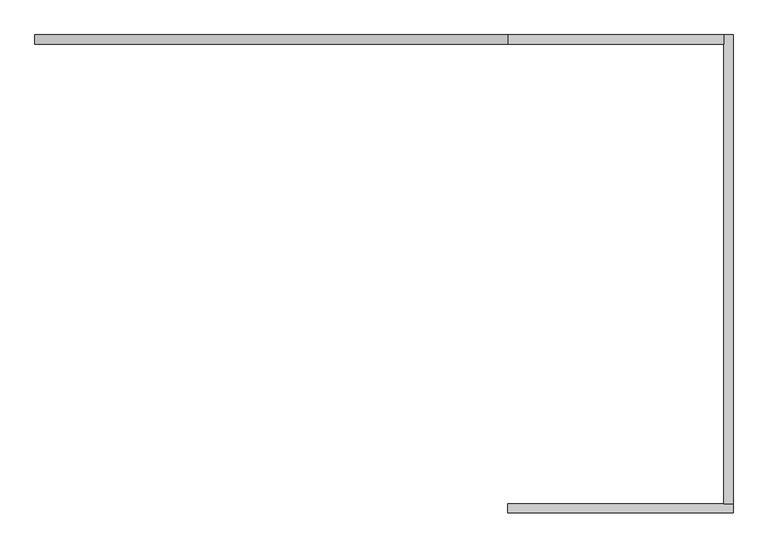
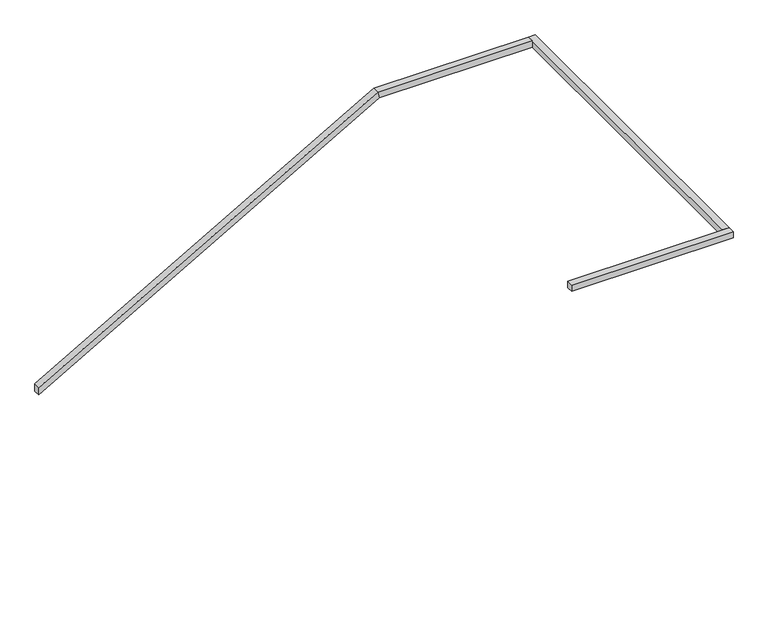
"""IFC4 building model written with IfcOpenShell, lengths in millimetres: railing geometry, 1100mm Exotic green_uten stølper."""

from ifc_helpers import new_model, si_unit, origin, place, context, project, spatial, faceted_brep, source, transform, mapped, element, save


def railing_82bef75d(model_context):
    return source(origin(), model_context, "Body", "Brep", [
        faceted_brep([(64486.8244986, 10512.1640155, 3760.0), (64486.8244986, 10562.1640155, 3760.0), (64486.8244986, 10562.1640155, 3702.4124447), (64486.8244986, 10512.1640155, 3702.4124447), (67006.8244986, 10512.1640155, 5200.0), (67006.8244986, 10562.1640155, 5200.0), (67020.1027205, 10562.1640155, 5150.0), (67020.1027205, 10512.1640155, 5150.0), (68156.8383642, 10512.1640155, 5200.0), (68156.8383642, 10512.1640155, 5150.0), (68156.8383642, 10562.1640155, 5150.0), (68156.8383642, 10562.1640155, 5200.0)], [[[0, 1, 2, 3]], [[1, 0, 4, 5]], [[2, 1, 5, 6]], [[3, 2, 6, 7]], [[0, 3, 7, 4]], [[8, 9, 10, 11]], [[5, 4, 8, 11]], [[6, 5, 11, 10]], [[7, 6, 10, 9]], [[4, 7, 9, 8]]]),
        faceted_brep([(68156.8383642, 10562.1640155, 5200.0), (68206.8383642, 10562.1640155, 5200.0), (68206.8383642, 10562.1640155, 5150.0), (68156.8383642, 10562.1640155, 5150.0), (68156.8383642, 8062.1668701, 5200.0), (68156.8383642, 8062.1668701, 5150.0), (68206.8383642, 8062.166916, 5150.0), (68206.8383642, 8062.166916, 5200.0)], [[[0, 1, 2, 3]], [[4, 5, 6, 7]], [[1, 0, 4, 7]], [[2, 1, 7, 6]], [[3, 2, 6, 5]], [[0, 3, 5, 4]]]),
        faceted_brep([(68206.8383642, 8062.166916, 5200.0), (68206.8383642, 8012.166916, 5200.0), (68206.8383642, 8012.166916, 5150.0), (68206.8383642, 8062.166916, 5150.0), (67006.8244527, 8062.1658145, 5200.0), (67006.8244527, 8062.1658145, 5150.0), (67006.8244986, 8012.1658145, 5150.0), (67006.8244986, 8012.1658145, 5200.0)], [[[0, 1, 2, 3]], [[4, 5, 6, 7]], [[1, 0, 4, 7]], [[2, 1, 7, 6]], [[3, 2, 6, 5]], [[0, 3, 5, 4]]]),
    ])


if __name__ == "__main__":
    model = new_model("IFC4")
    model_context = context("Model", 3, world=origin())
    ifc_project = project(units=[si_unit("LENGTHUNIT", "METRE", prefix="MILLI")], contexts=[model_context])
    site = spatial("IfcSite", under=ifc_project)
    building = spatial("IfcBuilding", under=site)
    placement = place(None, origin())
    railing_shape = railing_82bef75d(model_context)
    element("IfcRailing", 1, ObjectType="1100mm Exotic green_uten stølper", at=placement, inside=building, context=model_context, shape_type="MappedRepresentation", body=[
        mapped(railing_shape, transform((0.0, 0.0, 0.0), x_axis=(1.0, 0.0, 0.0), y_axis=(0.0, 1.0, 0.0), z_axis=(0.0, 0.0, 1.0))),
    ])
    save(model, "model.ifc")
